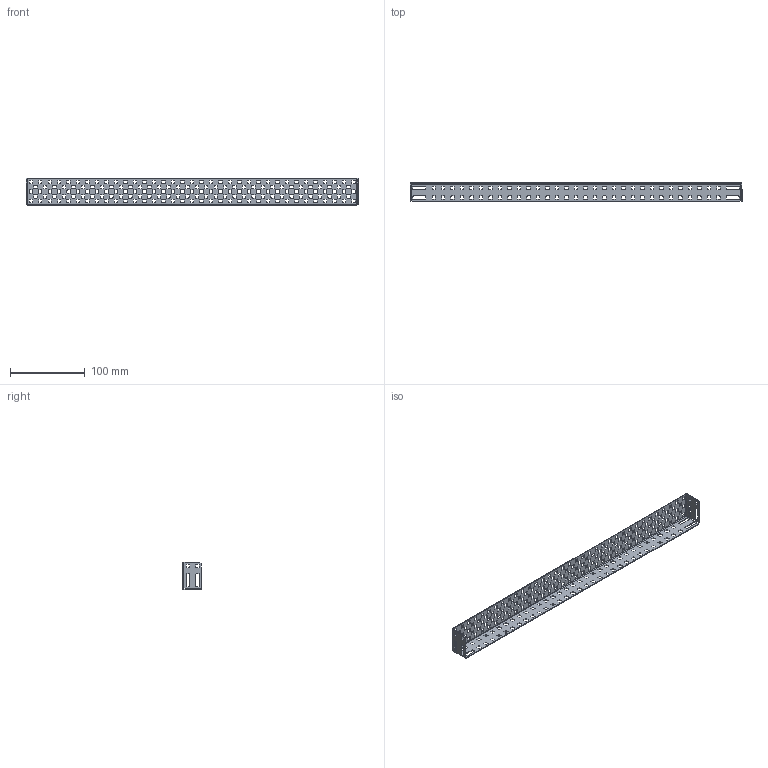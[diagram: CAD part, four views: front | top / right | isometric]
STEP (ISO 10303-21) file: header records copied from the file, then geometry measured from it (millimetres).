
FILE_DESCRIPTION (( 'STEP AP203' ), '1' );
FILE_NAME ('VL-RAIL-32-35 RevA.STEP', '2007-08-24T14:52:38', ( 'Innovation First, Inc.' ), ( 'Innovation First, Inc.' ), 'SwSTEP 2.0', 'SolidWorks 2006052', '' );
FILE_SCHEMA (( 'CONFIG_CONTROL_DESIGN' ));
Length unit declared in the file: inch
Products named in the file (1): VL-RAIL-32-35 RevA
Bounding box: 444.5 x 25.4 x 36.83 mm (x, y, z)
Volume: 26545 mm3; surface area: 52044.2 mm2
Topology: 1 solids, 1 shells, 2012 faces, 6006 edges, 3996 vertices
Faces by surface type: plane 1018, cylinder 994
Entity records: 69193 total; most frequent: DIRECTION 12020, CARTESIAN_POINT 12015, ORIENTED_EDGE 12012, EDGE_CURVE 6006, VECTOR 4018, LINE 4018, AXIS2_PLACEMENT_3D 4001, VERTEX_POINT 3996
